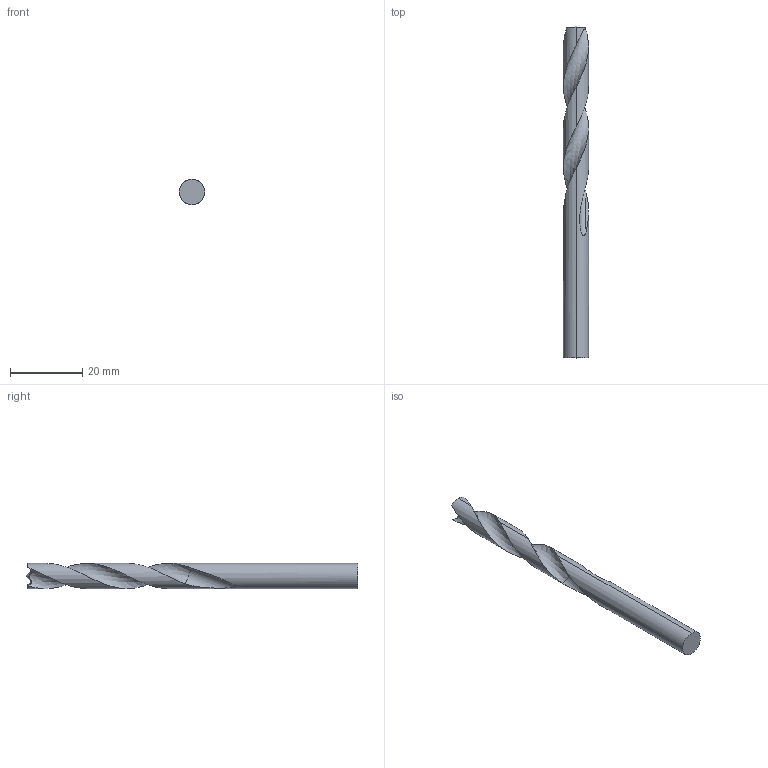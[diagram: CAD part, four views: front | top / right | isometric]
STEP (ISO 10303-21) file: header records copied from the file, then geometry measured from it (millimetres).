
FILE_DESCRIPTION (( 'STEP AP214' ), '1' );
FILE_NAME ('084.818.007.STEP', '2021-02-05T11:02:40', ( '' ), ( '' ), 'SwSTEP 2.0', 'SolidWorks 2018', '' );
FILE_SCHEMA (( 'AUTOMOTIVE_DESIGN' ));
Length unit declared in the file: millimetre
Products named in the file (1): 084.818.007
Bounding box: 7 x 92 x 7 mm (x, y, z)
Volume: 2591.5 mm3; surface area: 2145.3 mm2
Topology: 1 solids, 1 shells, 24 faces, 63 edges, 41 vertices
Faces by surface type: cylinder 8, plane 6, cone 5, torus 3, bspline 2
Entity records: 2547 total; most frequent: CARTESIAN_POINT 1979, ORIENTED_EDGE 126, DIRECTION 101, EDGE_CURVE 63, AXIS2_PLACEMENT_3D 45, VERTEX_POINT 41, EDGE_LOOP 24, FACE_OUTER_BOUND 24
